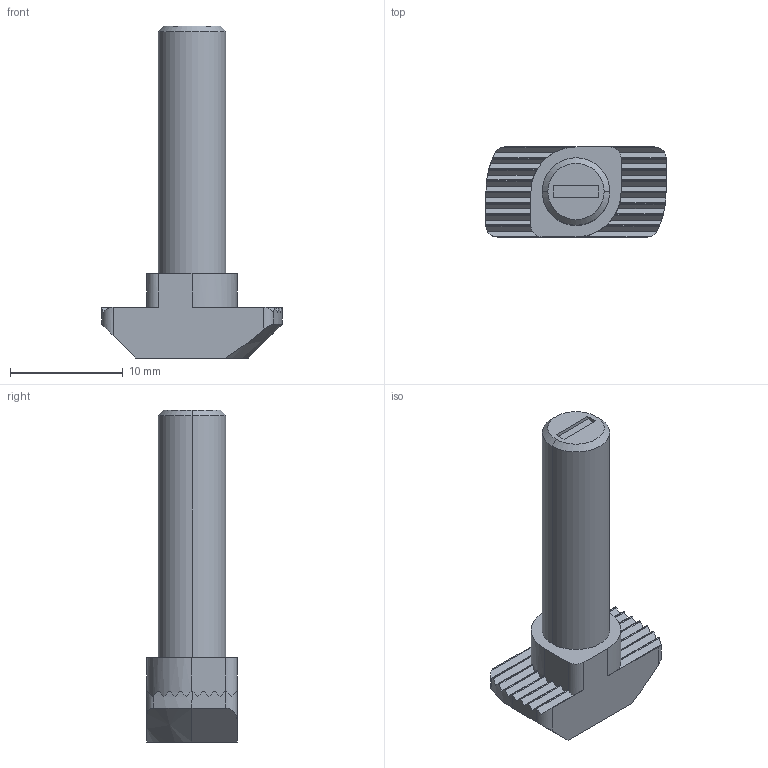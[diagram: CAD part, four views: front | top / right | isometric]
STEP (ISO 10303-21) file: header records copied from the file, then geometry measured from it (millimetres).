
FILE_DESCRIPTION(('STEP AP214'),'1');
FILE_NAME('C:/TPO v2/SharedFS/Outgoing/fath_096hk0830m0625.stp','2016-07-05T22:30:44',('TraceParts'),('TraceParts S.A.'),'Spatial InterOp 3D',' ',' ');
FILE_SCHEMA(('automotive_design'));
Length unit declared in the file: millimetre
Products named in the file (1): Schnitt-Linear austragen12
Bounding box: 16 x 8 x 29.5 mm (x, y, z)
Volume: 1244.7 mm3; surface area: 949.9 mm2
Topology: 1 solids, 1 shells, 113 faces, 304 edges, 195 vertices
Faces by surface type: plane 61, cylinder 46, cone 6
Entity records: 4799 total; most frequent: CARTESIAN_POINT 1229, ORIENTED_EDGE 604, DIRECTION 490, EDGE_CURVE 302, VERTEX_POINT 195, LINE 166, VECTOR 166, AXIS2_PLACEMENT_3D 162
